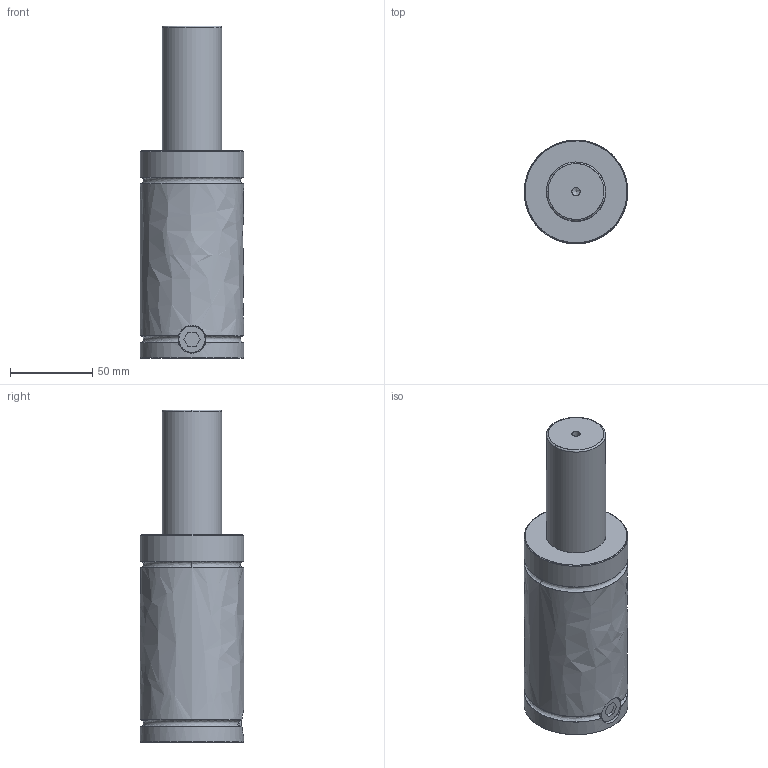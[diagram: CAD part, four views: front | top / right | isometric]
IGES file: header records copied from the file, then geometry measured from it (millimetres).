
Start section: VISI Layer Mapping Iges    VISI  0      LAYER_EMPTY  1      wwww  7      W_PD700  8      S_PD700  10     W_PD1000  11     S_PD1000  13     W_PD2000  14     S_PD2000  16     W_PD3000  17     S_PD3000  19     W_PD4000  20     S_PD4000  22     W_PD7000  23     S_PD7000  28     W_350  29     MS-350  30     MC-350  31     MP-350  32     MB-350  33     MH-350  34     MK-350  35     MPL-350  39     W_500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
Global section: file name: E:\だ錶臢\だ錶臢3D\SYLINDER\PT Series\PT1500\PT1500\PT1500-75.igs; native system: VISI 16.0; preprocessor: 2.0; author: 11; organization: 0; date: 500.; units: mil
Bounding box: 63 x 63 x 202 mm (x, y, z)
Surface area: 42505.8 mm2 (no closed solid volume)
Topology: 0 solids, 0 shells, 33 faces, 476 edges, 450 vertices
Faces by surface type: bspline 33
